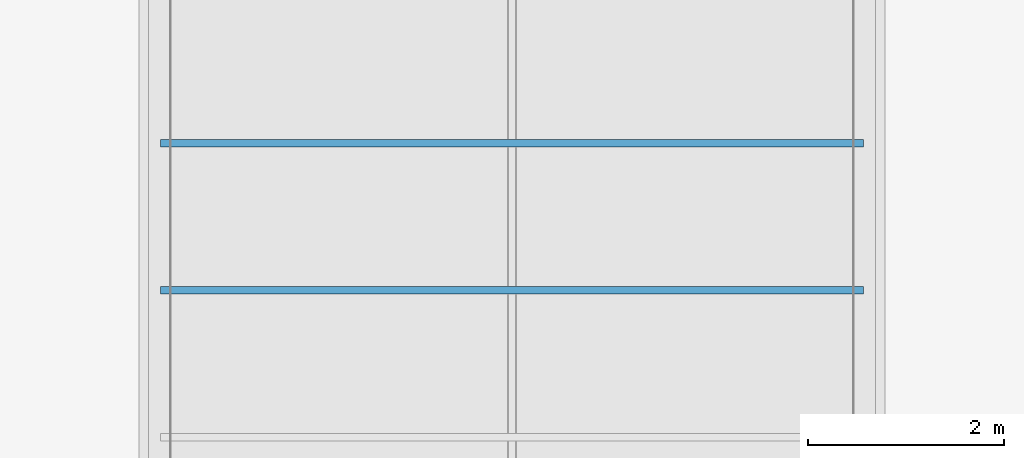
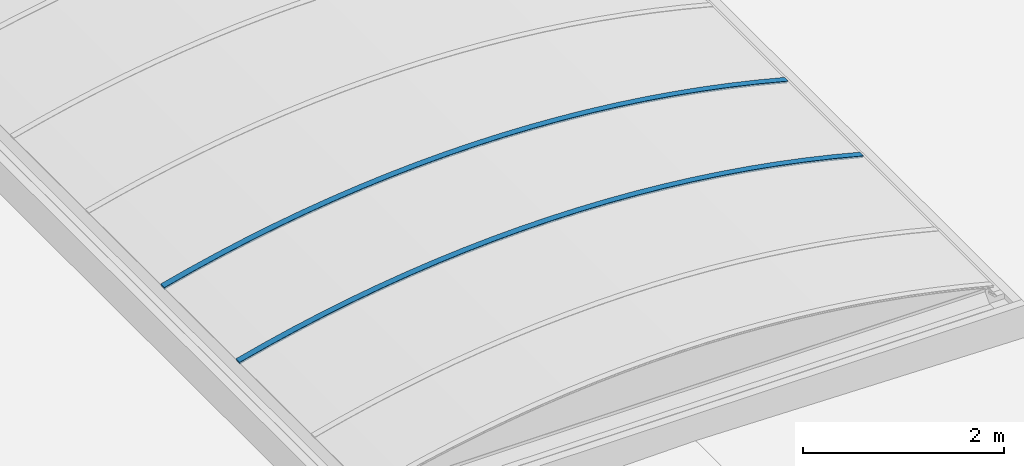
# One storey, part 33 of 81: 2 beams.
"""IFC2X3 building model written with IfcOpenShell, lengths in millimetres."""

from ifc_helpers import new_model, entity, si_unit, converted_unit, derived_unit, money_unit, direction, frame, origin_with_axes, place, context, subcontext, project, spatial, faceted_brep, material, material_list, type_object, element, save


model = new_model("IFC2X3")

# Units and contexts
model_context = context("Model", 3, precision=0.01, world=origin_with_axes(), true_north=direction((0.0, 1.0)))
body_context = subcontext(model_context, "Body", "Model", "MODEL_VIEW")
ifc_project = project(units=[si_unit("LENGTHUNIT", "METRE", prefix="MILLI"), si_unit("AREAUNIT", "SQUARE_METRE"), si_unit("VOLUMEUNIT", "CUBIC_METRE"), converted_unit("PLANEANGLEUNIT", "DEGREE", entity("IfcPlaneAngleMeasure", 0.0174532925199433), si_unit("PLANEANGLEUNIT", "RADIAN"), dimensions=[0, 0, 0, 0, 0, 0, 0]), money_unit("EUR"), converted_unit("TIMEUNIT", "Year", entity("IfcTimeMeasure", 31557600.0), si_unit("TIMEUNIT", "SECOND"), dimensions=[0, 0, 1, 0, 0, 0, 0]), si_unit("MASSUNIT", "GRAM", prefix="KILO"), si_unit("THERMODYNAMICTEMPERATUREUNIT", "DEGREE_CELSIUS"), si_unit("LUMINOUSINTENSITYUNIT", "LUMEN"), si_unit("ENERGYUNIT", "JOULE", prefix="MEGA"), derived_unit("THERMALCONDUCTANCEUNIT", [(si_unit("POWERUNIT", "WATT"), 1), (si_unit("LENGTHUNIT", "METRE"), -1), (si_unit("THERMODYNAMICTEMPERATUREUNIT", "KELVIN"), -1)]), derived_unit("SPECIFICHEATCAPACITYUNIT", [(si_unit("ENERGYUNIT", "JOULE"), 1), (si_unit("MASSUNIT", "GRAM", prefix="KILO"), -1), (si_unit("THERMODYNAMICTEMPERATUREUNIT", "KELVIN"), -1)]), derived_unit("MASSDENSITYUNIT", [(si_unit("MASSUNIT", "GRAM", prefix="KILO"), 1), (si_unit("VOLUMEUNIT", "CUBIC_METRE"), -1)])], contexts=[model_context])

# Site, building, storey
site_placement = place(None, origin_with_axes())
site = spatial("IfcSite", under=ifc_project, at=site_placement, Name="Site", CompositionType="ELEMENT")
building_placement = place(site_placement, origin_with_axes())
building = spatial("IfcBuilding", under=site, at=building_placement, Name="Naam gebouw", CompositionType="ELEMENT")
storey_placement = place(building_placement, frame((0.0, 0.0, 15320.0), z_axis=(0.0, 0.0, 1.0), x_axis=(1.0, 0.0, 0.0)))
storey = spatial("IfcBuildingStorey", under=building, at=storey_placement, Name="01 dak", CompositionType="ELEMENT", Elevation=15320.0)

# Beams
ifc_material = material(Name="Metaal - Aluminium AFW")
ifc_material_list = material_list([ifc_material, ifc_material])
beam_type = type_object("IfcBeamType", Name="lichtstraat polycarbonaat (constructie) 7420 x 670", PredefinedType="BEAM")
beam_1_placement = place(storey_placement, frame((46900.00000000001, 41362.50000000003, 559.9999999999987), z_axis=(0.0, 0.0, 1.0), x_axis=(1.0, 0.0, 0.0)))
element("IfcBeam", 1, at=beam_1_placement, inside=storey, type_object=beam_type, material=ifc_material_list, Name="Plafondafwerking 3", ObjectType="BEAM", context=body_context, shape_type="Brep", body=[
    faceted_brep([(-3532.999999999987, 0.0, 192.1385480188), (-3582.999999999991, 0.0, 179.000000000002), (-3582.999999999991, 75.00000000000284, 179.000000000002), (-3532.999999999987, 75.00000000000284, 192.1385480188), (-3264.746952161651, 0.0, 264.2761146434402), (-3584.237010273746, 0.0, 183.6724462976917), (-3527.999999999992, 0.0, 193.4415530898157), (-3213.322878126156, 0.0, 271.5053933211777), (-2896.922437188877, 0.0, 342.2614189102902), (-2578.968364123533, 0.0, 405.6716830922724), (-2259.631179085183, 0.0, 461.7021786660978), (-1939.082143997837, 0.0, 510.3228562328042), (-1617.493170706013, 0.0, 551.5076403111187), (-1295.036728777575, 0.0, 585.2344433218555), (-971.8857530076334, 0.0, 611.485177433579), (-648.2135506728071, 0.0, 630.2457642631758), (-324.1937085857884, 0.0, 641.5061424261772), (0.0, 0.0, 645.2602729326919), (324.1937085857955, 0.0, 641.5061424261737), (648.2135506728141, 0.0, 630.2457642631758), (971.8857530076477, 0.0, 611.4851774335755), (1295.036728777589, 0.0, 585.2344433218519), (1617.49317070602, 0.0, 551.5076403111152), (1939.082143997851, 0.0, 510.3228562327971), (2259.63117908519, 0.0, 461.7021786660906), (2578.968364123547, 0.0, 405.6716830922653), (2896.922437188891, 0.0, 342.2614189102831), (3213.322878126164, 0.0, 271.5053933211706), (3528.000000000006, 0.0, 193.4415530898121), (3528.000000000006, 0.0, 194.0000000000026), (3533.000000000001, 0.0, 194.0000000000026), (3533.000000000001, 0.0, 192.1385480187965), (3582.999999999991, 0.0, 179.000000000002), (3584.237010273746, 0.0, 183.6724462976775), (3264.746952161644, 0.0, 264.2761146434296), (2943.448443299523, 0.0, 337.3385317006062), (2620.519461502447, 0.0, 402.8192257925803), (2296.138887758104, 0.0, 460.6819250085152), (1970.486407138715, 0.0, 510.8945772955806), (1643.742409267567, 0.0, 553.4293682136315), (1316.087888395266, 0.0, 588.2627363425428), (987.7043431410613, 0.0, 615.3753863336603), (658.7736759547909, 0.0, 634.7522995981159), (329.4780923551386, 0.0, 646.3827426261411), (0.0, 0.0, 650.2602729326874), (-329.4780923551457, 0.0, 646.3827426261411), (-658.7736759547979, 0.0, 634.7522995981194), (-987.7043431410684, 0.0, 615.375386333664), (-1316.087888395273, 0.0, 588.2627363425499), (-1643.742409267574, 0.0, 553.4293682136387), (-1970.486407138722, 0.0, 510.8945772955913), (-2296.138887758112, 0.0, 460.6819250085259), (-2620.519461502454, 0.0, 402.8192257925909), (-2943.44844329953, 0.0, 337.3385317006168), (-3584.237010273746, 75.00000000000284, 183.6724462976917), (-3527.999999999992, 75.00000000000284, 193.4415530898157), (-3264.746952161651, 75.00000000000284, 264.2761146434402), (-2943.44844329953, 75.00000000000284, 337.3385317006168), (-2620.519461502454, 75.00000000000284, 402.8192257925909), (-2296.138887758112, 75.00000000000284, 460.6819250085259), (-1970.486407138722, 75.00000000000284, 510.8945772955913), (-1643.742409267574, 75.00000000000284, 553.4293682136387), (-1316.087888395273, 75.00000000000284, 588.2627363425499), (-987.7043431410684, 75.00000000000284, 615.375386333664), (-658.7736759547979, 75.00000000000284, 634.7522995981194), (-329.4780923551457, 75.00000000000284, 646.3827426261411), (0.0, 75.00000000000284, 650.2602729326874), (329.4780923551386, 75.00000000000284, 646.3827426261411), (658.7736759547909, 75.00000000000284, 634.7522995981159), (987.7043431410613, 75.00000000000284, 615.3753863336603), (1316.087888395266, 75.00000000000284, 588.2627363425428), (1643.742409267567, 75.00000000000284, 553.4293682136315), (1970.486407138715, 75.00000000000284, 510.8945772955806), (2296.138887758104, 75.00000000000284, 460.6819250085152), (2620.519461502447, 75.00000000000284, 402.8192257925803), (2943.448443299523, 75.00000000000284, 337.3385317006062), (3264.746952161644, 75.00000000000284, 264.2761146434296), (3584.237010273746, 75.00000000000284, 183.6724462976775), (3582.999999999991, 75.00000000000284, 179.000000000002), (3533.000000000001, 75.00000000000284, 192.1385480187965), (3533.000000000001, 75.00000000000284, 194.0000000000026), (3528.000000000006, 75.00000000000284, 194.0000000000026), (3528.000000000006, 75.00000000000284, 193.4415530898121), (3213.322878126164, 75.00000000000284, 271.5053933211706), (2896.922437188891, 75.00000000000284, 342.2614189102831), (2578.968364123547, 75.00000000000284, 405.6716830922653), (2259.63117908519, 75.00000000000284, 461.7021786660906), (1939.082143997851, 75.00000000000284, 510.3228562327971), (1617.49317070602, 75.00000000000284, 551.5076403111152), (1295.036728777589, 75.00000000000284, 585.2344433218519), (971.8857530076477, 75.00000000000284, 611.4851774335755), (648.2135506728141, 75.00000000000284, 630.2457642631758), (324.1937085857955, 75.00000000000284, 641.5061424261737), (0.0, 75.00000000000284, 645.2602729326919), (-324.1937085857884, 75.00000000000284, 641.5061424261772), (-648.2135506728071, 75.00000000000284, 630.2457642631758), (-971.8857530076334, 75.00000000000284, 611.485177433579), (-1295.036728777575, 75.00000000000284, 585.2344433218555), (-1617.493170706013, 75.00000000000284, 551.5076403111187), (-1939.082143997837, 75.00000000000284, 510.3228562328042), (-2259.631179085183, 75.00000000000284, 461.7021786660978), (-2578.968364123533, 75.00000000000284, 405.6716830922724), (-2896.922437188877, 75.00000000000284, 342.2614189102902), (-3213.322878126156, 75.00000000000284, 271.5053933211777)], [[[0, 1, 2, 3]], [[4, 5, 1, 0, 6, 7, 8, 9, 10, 11, 12, 13, 14, 15, 16, 17, 18, 19, 20, 21, 22, 23, 24, 25, 26, 27, 28, 29, 30, 31, 32, 33, 34, 35, 36, 37, 38, 39, 40, 41, 42, 43, 44, 45, 46, 47, 48, 49, 50, 51, 52, 53]], [[1, 5, 54, 2]], [[55, 3, 2, 54, 56, 57, 58, 59, 60, 61, 62, 63, 64, 65, 66, 67, 68, 69, 70, 71, 72, 73, 74, 75, 76, 77, 78, 79, 80, 81, 82, 83, 84, 85, 86, 87, 88, 89, 90, 91, 92, 93, 94, 95, 96, 97, 98, 99, 100, 101, 102, 103]], [[6, 0, 3, 55]], [[5, 4, 56, 54]], [[7, 6, 55, 103]], [[8, 7, 103, 102]], [[9, 8, 102, 101]], [[10, 9, 101, 100]], [[11, 10, 100, 99]], [[12, 11, 99, 98]], [[13, 12, 98, 97]], [[14, 13, 97, 96]], [[15, 14, 96, 95]], [[16, 15, 95, 94]], [[17, 16, 94, 93]], [[18, 17, 93, 92]], [[19, 18, 92, 91]], [[20, 19, 91, 90]], [[21, 20, 90, 89]], [[22, 21, 89, 88]], [[23, 22, 88, 87]], [[24, 23, 87, 86]], [[25, 24, 86, 85]], [[26, 25, 85, 84]], [[27, 26, 84, 83]], [[28, 27, 83, 82]], [[29, 28, 82, 81]], [[30, 29, 81, 80]], [[31, 30, 80, 79]], [[32, 31, 79, 78]], [[33, 32, 78, 77]], [[34, 33, 77, 76]], [[35, 34, 76, 75]], [[36, 35, 75, 74]], [[37, 36, 74, 73]], [[38, 37, 73, 72]], [[39, 38, 72, 71]], [[40, 39, 71, 70]], [[41, 40, 70, 69]], [[42, 41, 69, 68]], [[43, 42, 68, 67]], [[44, 43, 67, 66]], [[45, 44, 66, 65]], [[46, 45, 65, 64]], [[47, 46, 64, 63]], [[48, 47, 63, 62]], [[49, 48, 62, 61]], [[50, 49, 61, 60]], [[51, 50, 60, 59]], [[52, 51, 59, 58]], [[53, 52, 58, 57]], [[4, 53, 57, 56]]]),
    faceted_brep([(3269.271727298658, 75.00000000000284, 283.190243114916), (2947.542627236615, 75.00000000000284, 356.4574241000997), (2947.542627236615, 0.0, 356.4574241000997), (3269.271727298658, 0.0, 283.190243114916), (3589.18475202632, 75.00000000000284, 202.3611008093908), (3587.947861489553, 75.00000000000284, 197.6891067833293), (3528.000000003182, 75.00000000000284, 213.4415530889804), (3213.322878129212, 75.00000000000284, 291.505393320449), (2896.922437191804, 75.00000000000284, 362.2614189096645), (2578.968364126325, 75.00000000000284, 425.6716830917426), (2259.631179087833, 75.00000000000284, 481.7021786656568), (1939.082144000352, 75.00000000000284, 530.3228562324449), (1617.493170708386, 75.00000000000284, 571.5076403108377), (1295.036728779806, 75.00000000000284, 605.2344433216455), (971.8857530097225, 75.00000000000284, 631.4851774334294), (648.2135506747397, 75.00000000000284, 650.2457642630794), (324.1937085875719, 75.00000000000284, 661.5061424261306), (1.63424829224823e-09, 75.00000000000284, 665.2602729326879), (-324.1937085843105, 75.00000000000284, 661.5061424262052), (-648.2135506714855, 75.00000000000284, 650.2457642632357), (-971.8857530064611, 75.00000000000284, 631.4851774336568), (-1295.036728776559, 75.00000000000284, 605.2344433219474), (-1617.493170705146, 75.00000000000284, 571.5076403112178), (-1939.082143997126, 75.00000000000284, 530.3228562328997), (-2259.631179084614, 75.00000000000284, 481.7021786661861), (-2578.968364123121, 75.00000000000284, 425.6716830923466), (-2896.922437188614, 75.00000000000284, 362.2614189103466), (-3213.322878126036, 75.00000000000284, 291.5053933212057), (-3528.00000000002, 75.00000000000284, 213.4415530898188), (-3533.000000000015, 75.00000000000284, 212.1385480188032), (-3587.947861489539, 75.00000000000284, 197.6891067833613), (-3589.184752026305, 75.00000000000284, 202.3611008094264), (-3269.271727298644, 75.00000000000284, 283.1902431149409), (-2947.542627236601, 75.00000000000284, 356.4574241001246), (-2624.176171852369, 75.00000000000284, 422.1219439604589), (-2299.351990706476, 75.00000000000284, 480.1473261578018), (-1973.250523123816, 75.00000000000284, 530.5013376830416), (-1646.052917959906, 75.00000000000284, 573.156006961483), (-1317.940932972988, 75.00000000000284, 608.0876393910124), (-989.0968338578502, 75.00000000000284, 635.2768305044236), (-659.7032929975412, 75.00000000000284, 654.7084767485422), (-329.9432879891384, 75.00000000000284, 666.3717838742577), (0.0, 75.00000000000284, 670.2602729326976), (329.9432879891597, 75.00000000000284, 666.3717838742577), (659.7032929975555, 75.00000000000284, 654.7084767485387), (989.0968338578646, 75.00000000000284, 635.2768305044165), (1317.940932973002, 75.00000000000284, 608.0876393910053), (1646.052917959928, 75.00000000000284, 573.1560069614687), (1973.250523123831, 75.00000000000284, 530.5013376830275), (2299.351990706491, 75.00000000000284, 480.147326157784), (2624.176171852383, 75.00000000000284, 422.1219439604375), (2624.176171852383, 0.0, 422.1219439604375), (2299.351990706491, 0.0, 480.147326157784), (1973.250523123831, 0.0, 530.5013376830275), (1646.052917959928, 0.0, 573.1560069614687), (1317.940932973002, 0.0, 608.0876393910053), (989.0968338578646, 0.0, 635.2768305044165), (659.7032929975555, 0.0, 654.7084767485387), (329.9432879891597, 0.0, 666.3717838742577), (0.0, 0.0, 670.2602729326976), (-329.9432879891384, 0.0, 666.3717838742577), (-659.7032929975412, 0.0, 654.7084767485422), (-989.0968338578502, 0.0, 635.2768305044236), (-1317.940932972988, 0.0, 608.0876393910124), (-1646.052917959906, 0.0, 573.156006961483), (-1973.250523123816, 0.0, 530.5013376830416), (-2299.351990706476, 0.0, 480.1473261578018), (-2624.176171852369, 0.0, 422.1219439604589), (-2947.542627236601, 0.0, 356.4574241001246), (-3269.271727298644, 0.0, 283.1902431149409), (-3589.184752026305, 0.0, 202.3611008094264), (-3587.947861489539, 0.0, 197.6891067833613), (-3533.000000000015, 0.0, 212.1385480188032), (-3528.00000000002, 0.0, 213.4415530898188), (-3213.322878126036, 0.0, 291.5053933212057), (-2896.922437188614, 0.0, 362.2614189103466), (-2578.968364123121, 0.0, 425.6716830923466), (-2259.631179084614, 0.0, 481.7021786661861), (-1939.082143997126, 0.0, 530.3228562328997), (-1617.493170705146, 0.0, 571.5076403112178), (-1295.036728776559, 0.0, 605.2344433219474), (-971.8857530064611, 0.0, 631.4851774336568), (-648.2135506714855, 0.0, 650.2457642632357), (-324.1937085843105, 0.0, 661.5061424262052), (1.63424829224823e-09, 0.0, 665.2602729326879), (324.1937085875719, 0.0, 661.5061424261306), (648.2135506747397, 0.0, 650.2457642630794), (971.8857530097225, 0.0, 631.4851774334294), (1295.036728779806, 0.0, 605.2344433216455), (1617.493170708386, 0.0, 571.5076403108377), (1939.082144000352, 0.0, 530.3228562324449), (2259.631179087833, 0.0, 481.7021786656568), (2578.968364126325, 0.0, 425.6716830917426), (2896.922437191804, 0.0, 362.2614189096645), (3213.322878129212, 0.0, 291.505393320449), (3528.000000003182, 0.0, 213.4415530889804), (3587.947861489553, 0.0, 197.6891067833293), (3589.18475202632, 0.0, 202.3611008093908)], [[[0, 1, 2, 3]], [[0, 4, 5, 6, 7, 8, 9, 10, 11, 12, 13, 14, 15, 16, 17, 18, 19, 20, 21, 22, 23, 24, 25, 26, 27, 28, 29, 30, 31, 32, 33, 34, 35, 36, 37, 38, 39, 40, 41, 42, 43, 44, 45, 46, 47, 48, 49, 50, 1]], [[1, 50, 51, 2]], [[3, 2, 51, 52, 53, 54, 55, 56, 57, 58, 59, 60, 61, 62, 63, 64, 65, 66, 67, 68, 69, 70, 71, 72, 73, 74, 75, 76, 77, 78, 79, 80, 81, 82, 83, 84, 85, 86, 87, 88, 89, 90, 91, 92, 93, 94, 95, 96, 97]], [[4, 0, 3, 97]], [[5, 4, 97, 96]], [[6, 5, 96, 95]], [[7, 6, 95, 94]], [[8, 7, 94, 93]], [[9, 8, 93, 92]], [[10, 9, 92, 91]], [[11, 10, 91, 90]], [[12, 11, 90, 89]], [[13, 12, 89, 88]], [[14, 13, 88, 87]], [[15, 14, 87, 86]], [[16, 15, 86, 85]], [[17, 16, 85, 84]], [[18, 17, 84, 83]], [[19, 18, 83, 82]], [[20, 19, 82, 81]], [[21, 20, 81, 80]], [[22, 21, 80, 79]], [[23, 22, 79, 78]], [[24, 23, 78, 77]], [[25, 24, 77, 76]], [[26, 25, 76, 75]], [[27, 26, 75, 74]], [[28, 27, 74, 73]], [[29, 28, 73, 72]], [[30, 29, 72, 71]], [[31, 30, 71, 70]], [[32, 31, 70, 69]], [[33, 32, 69, 68]], [[34, 33, 68, 67]], [[35, 34, 67, 66]], [[36, 35, 66, 65]], [[37, 36, 65, 64]], [[38, 37, 64, 63]], [[39, 38, 63, 62]], [[40, 39, 62, 61]], [[41, 40, 61, 60]], [[42, 41, 60, 59]], [[43, 42, 59, 58]], [[44, 43, 58, 57]], [[45, 44, 57, 56]], [[46, 45, 56, 55]], [[47, 46, 55, 54]], [[48, 47, 54, 53]], [[49, 48, 53, 52]], [[50, 49, 52, 51]]]),
])
beam_2_placement = place(storey_placement, frame((46900.00000000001, 39862.50000000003, 559.9999999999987), z_axis=(0.0, 0.0, 1.0), x_axis=(1.0, 0.0, 0.0)))
element("IfcBeam", 2, at=beam_2_placement, inside=storey, type_object=beam_type, material=ifc_material_list, Name="Plafondafwerking 3", ObjectType="BEAM", context=body_context, shape_type="Brep", body=[
    faceted_brep([(-3532.999999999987, 0.0, 192.1385480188), (-3582.999999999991, 0.0, 179.000000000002), (-3582.999999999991, 75.00000000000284, 179.000000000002), (-3532.999999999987, 75.00000000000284, 192.1385480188), (-3264.746952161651, 0.0, 264.2761146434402), (-3584.237010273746, 0.0, 183.6724462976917), (-3527.999999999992, 0.0, 193.4415530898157), (-3213.322878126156, 0.0, 271.5053933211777), (-2896.922437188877, 0.0, 342.2614189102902), (-2578.968364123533, 0.0, 405.6716830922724), (-2259.631179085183, 0.0, 461.7021786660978), (-1939.082143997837, 0.0, 510.3228562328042), (-1617.493170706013, 0.0, 551.5076403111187), (-1295.036728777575, 0.0, 585.2344433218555), (-971.8857530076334, 0.0, 611.485177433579), (-648.2135506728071, 0.0, 630.2457642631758), (-324.1937085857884, 0.0, 641.5061424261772), (0.0, 0.0, 645.2602729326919), (324.1937085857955, 0.0, 641.5061424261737), (648.2135506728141, 0.0, 630.2457642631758), (971.8857530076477, 0.0, 611.4851774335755), (1295.036728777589, 0.0, 585.2344433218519), (1617.49317070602, 0.0, 551.5076403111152), (1939.082143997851, 0.0, 510.3228562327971), (2259.63117908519, 0.0, 461.7021786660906), (2578.968364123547, 0.0, 405.6716830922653), (2896.922437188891, 0.0, 342.2614189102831), (3213.322878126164, 0.0, 271.5053933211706), (3528.000000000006, 0.0, 193.4415530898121), (3528.000000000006, 0.0, 194.0000000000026), (3533.000000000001, 0.0, 194.0000000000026), (3533.000000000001, 0.0, 192.1385480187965), (3582.999999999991, 0.0, 179.000000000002), (3584.237010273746, 0.0, 183.6724462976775), (3264.746952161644, 0.0, 264.2761146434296), (2943.448443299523, 0.0, 337.3385317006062), (2620.519461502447, 0.0, 402.8192257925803), (2296.138887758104, 0.0, 460.6819250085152), (1970.486407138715, 0.0, 510.8945772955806), (1643.742409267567, 0.0, 553.4293682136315), (1316.087888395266, 0.0, 588.2627363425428), (987.7043431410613, 0.0, 615.3753863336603), (658.7736759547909, 0.0, 634.7522995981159), (329.4780923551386, 0.0, 646.3827426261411), (0.0, 0.0, 650.2602729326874), (-329.4780923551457, 0.0, 646.3827426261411), (-658.7736759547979, 0.0, 634.7522995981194), (-987.7043431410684, 0.0, 615.375386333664), (-1316.087888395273, 0.0, 588.2627363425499), (-1643.742409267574, 0.0, 553.4293682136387), (-1970.486407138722, 0.0, 510.8945772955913), (-2296.138887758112, 0.0, 460.6819250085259), (-2620.519461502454, 0.0, 402.8192257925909), (-2943.44844329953, 0.0, 337.3385317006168), (-3584.237010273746, 75.00000000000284, 183.6724462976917), (-3527.999999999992, 75.00000000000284, 193.4415530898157), (-3264.746952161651, 75.00000000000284, 264.2761146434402), (-2943.44844329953, 75.00000000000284, 337.3385317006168), (-2620.519461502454, 75.00000000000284, 402.8192257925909), (-2296.138887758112, 75.00000000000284, 460.6819250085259), (-1970.486407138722, 75.00000000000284, 510.8945772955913), (-1643.742409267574, 75.00000000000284, 553.4293682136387), (-1316.087888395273, 75.00000000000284, 588.2627363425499), (-987.7043431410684, 75.00000000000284, 615.375386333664), (-658.7736759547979, 75.00000000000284, 634.7522995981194), (-329.4780923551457, 75.00000000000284, 646.3827426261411), (0.0, 75.00000000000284, 650.2602729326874), (329.4780923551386, 75.00000000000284, 646.3827426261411), (658.7736759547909, 75.00000000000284, 634.7522995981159), (987.7043431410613, 75.00000000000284, 615.3753863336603), (1316.087888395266, 75.00000000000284, 588.2627363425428), (1643.742409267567, 75.00000000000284, 553.4293682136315), (1970.486407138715, 75.00000000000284, 510.8945772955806), (2296.138887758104, 75.00000000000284, 460.6819250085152), (2620.519461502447, 75.00000000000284, 402.8192257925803), (2943.448443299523, 75.00000000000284, 337.3385317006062), (3264.746952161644, 75.00000000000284, 264.2761146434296), (3584.237010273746, 75.00000000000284, 183.6724462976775), (3582.999999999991, 75.00000000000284, 179.000000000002), (3533.000000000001, 75.00000000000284, 192.1385480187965), (3533.000000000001, 75.00000000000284, 194.0000000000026), (3528.000000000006, 75.00000000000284, 194.0000000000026), (3528.000000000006, 75.00000000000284, 193.4415530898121), (3213.322878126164, 75.00000000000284, 271.5053933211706), (2896.922437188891, 75.00000000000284, 342.2614189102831), (2578.968364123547, 75.00000000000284, 405.6716830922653), (2259.63117908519, 75.00000000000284, 461.7021786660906), (1939.082143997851, 75.00000000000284, 510.3228562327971), (1617.49317070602, 75.00000000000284, 551.5076403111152), (1295.036728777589, 75.00000000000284, 585.2344433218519), (971.8857530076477, 75.00000000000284, 611.4851774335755), (648.2135506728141, 75.00000000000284, 630.2457642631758), (324.1937085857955, 75.00000000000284, 641.5061424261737), (0.0, 75.00000000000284, 645.2602729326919), (-324.1937085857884, 75.00000000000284, 641.5061424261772), (-648.2135506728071, 75.00000000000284, 630.2457642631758), (-971.8857530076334, 75.00000000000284, 611.485177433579), (-1295.036728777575, 75.00000000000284, 585.2344433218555), (-1617.493170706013, 75.00000000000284, 551.5076403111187), (-1939.082143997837, 75.00000000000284, 510.3228562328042), (-2259.631179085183, 75.00000000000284, 461.7021786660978), (-2578.968364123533, 75.00000000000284, 405.6716830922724), (-2896.922437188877, 75.00000000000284, 342.2614189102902), (-3213.322878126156, 75.00000000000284, 271.5053933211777)], [[[0, 1, 2, 3]], [[4, 5, 1, 0, 6, 7, 8, 9, 10, 11, 12, 13, 14, 15, 16, 17, 18, 19, 20, 21, 22, 23, 24, 25, 26, 27, 28, 29, 30, 31, 32, 33, 34, 35, 36, 37, 38, 39, 40, 41, 42, 43, 44, 45, 46, 47, 48, 49, 50, 51, 52, 53]], [[1, 5, 54, 2]], [[55, 3, 2, 54, 56, 57, 58, 59, 60, 61, 62, 63, 64, 65, 66, 67, 68, 69, 70, 71, 72, 73, 74, 75, 76, 77, 78, 79, 80, 81, 82, 83, 84, 85, 86, 87, 88, 89, 90, 91, 92, 93, 94, 95, 96, 97, 98, 99, 100, 101, 102, 103]], [[6, 0, 3, 55]], [[5, 4, 56, 54]], [[7, 6, 55, 103]], [[8, 7, 103, 102]], [[9, 8, 102, 101]], [[10, 9, 101, 100]], [[11, 10, 100, 99]], [[12, 11, 99, 98]], [[13, 12, 98, 97]], [[14, 13, 97, 96]], [[15, 14, 96, 95]], [[16, 15, 95, 94]], [[17, 16, 94, 93]], [[18, 17, 93, 92]], [[19, 18, 92, 91]], [[20, 19, 91, 90]], [[21, 20, 90, 89]], [[22, 21, 89, 88]], [[23, 22, 88, 87]], [[24, 23, 87, 86]], [[25, 24, 86, 85]], [[26, 25, 85, 84]], [[27, 26, 84, 83]], [[28, 27, 83, 82]], [[29, 28, 82, 81]], [[30, 29, 81, 80]], [[31, 30, 80, 79]], [[32, 31, 79, 78]], [[33, 32, 78, 77]], [[34, 33, 77, 76]], [[35, 34, 76, 75]], [[36, 35, 75, 74]], [[37, 36, 74, 73]], [[38, 37, 73, 72]], [[39, 38, 72, 71]], [[40, 39, 71, 70]], [[41, 40, 70, 69]], [[42, 41, 69, 68]], [[43, 42, 68, 67]], [[44, 43, 67, 66]], [[45, 44, 66, 65]], [[46, 45, 65, 64]], [[47, 46, 64, 63]], [[48, 47, 63, 62]], [[49, 48, 62, 61]], [[50, 49, 61, 60]], [[51, 50, 60, 59]], [[52, 51, 59, 58]], [[53, 52, 58, 57]], [[4, 53, 57, 56]]]),
    faceted_brep([(3269.271727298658, 75.00000000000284, 283.190243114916), (2947.542627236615, 75.00000000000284, 356.4574241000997), (2947.542627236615, 0.0, 356.4574241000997), (3269.271727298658, 0.0, 283.190243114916), (3589.18475202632, 75.00000000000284, 202.3611008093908), (3587.947861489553, 75.00000000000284, 197.6891067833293), (3528.000000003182, 75.00000000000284, 213.4415530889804), (3213.322878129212, 75.00000000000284, 291.505393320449), (2896.922437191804, 75.00000000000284, 362.2614189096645), (2578.968364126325, 75.00000000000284, 425.6716830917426), (2259.631179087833, 75.00000000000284, 481.7021786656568), (1939.082144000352, 75.00000000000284, 530.3228562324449), (1617.493170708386, 75.00000000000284, 571.5076403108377), (1295.036728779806, 75.00000000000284, 605.2344433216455), (971.8857530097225, 75.00000000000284, 631.4851774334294), (648.2135506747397, 75.00000000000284, 650.2457642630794), (324.1937085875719, 75.00000000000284, 661.5061424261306), (1.63424829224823e-09, 75.00000000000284, 665.2602729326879), (-324.1937085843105, 75.00000000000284, 661.5061424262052), (-648.2135506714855, 75.00000000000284, 650.2457642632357), (-971.8857530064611, 75.00000000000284, 631.4851774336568), (-1295.036728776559, 75.00000000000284, 605.2344433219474), (-1617.493170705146, 75.00000000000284, 571.5076403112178), (-1939.082143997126, 75.00000000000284, 530.3228562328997), (-2259.631179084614, 75.00000000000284, 481.7021786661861), (-2578.968364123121, 75.00000000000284, 425.6716830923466), (-2896.922437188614, 75.00000000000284, 362.2614189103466), (-3213.322878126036, 75.00000000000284, 291.5053933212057), (-3528.00000000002, 75.00000000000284, 213.4415530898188), (-3533.000000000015, 75.00000000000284, 212.1385480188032), (-3587.947861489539, 75.00000000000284, 197.6891067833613), (-3589.184752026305, 75.00000000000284, 202.3611008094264), (-3269.271727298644, 75.00000000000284, 283.1902431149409), (-2947.542627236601, 75.00000000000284, 356.4574241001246), (-2624.176171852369, 75.00000000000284, 422.1219439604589), (-2299.351990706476, 75.00000000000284, 480.1473261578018), (-1973.250523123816, 75.00000000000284, 530.5013376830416), (-1646.052917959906, 75.00000000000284, 573.156006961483), (-1317.940932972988, 75.00000000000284, 608.0876393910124), (-989.0968338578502, 75.00000000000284, 635.2768305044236), (-659.7032929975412, 75.00000000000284, 654.7084767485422), (-329.9432879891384, 75.00000000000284, 666.3717838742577), (0.0, 75.00000000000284, 670.2602729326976), (329.9432879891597, 75.00000000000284, 666.3717838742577), (659.7032929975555, 75.00000000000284, 654.7084767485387), (989.0968338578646, 75.00000000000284, 635.2768305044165), (1317.940932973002, 75.00000000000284, 608.0876393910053), (1646.052917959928, 75.00000000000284, 573.1560069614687), (1973.250523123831, 75.00000000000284, 530.5013376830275), (2299.351990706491, 75.00000000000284, 480.147326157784), (2624.176171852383, 75.00000000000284, 422.1219439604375), (2624.176171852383, 0.0, 422.1219439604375), (2299.351990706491, 0.0, 480.147326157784), (1973.250523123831, 0.0, 530.5013376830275), (1646.052917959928, 0.0, 573.1560069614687), (1317.940932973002, 0.0, 608.0876393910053), (989.0968338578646, 0.0, 635.2768305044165), (659.7032929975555, 0.0, 654.7084767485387), (329.9432879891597, 0.0, 666.3717838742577), (0.0, 0.0, 670.2602729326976), (-329.9432879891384, 0.0, 666.3717838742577), (-659.7032929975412, 0.0, 654.7084767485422), (-989.0968338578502, 0.0, 635.2768305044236), (-1317.940932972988, 0.0, 608.0876393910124), (-1646.052917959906, 0.0, 573.156006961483), (-1973.250523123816, 0.0, 530.5013376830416), (-2299.351990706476, 0.0, 480.1473261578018), (-2624.176171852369, 0.0, 422.1219439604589), (-2947.542627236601, 0.0, 356.4574241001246), (-3269.271727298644, 0.0, 283.1902431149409), (-3589.184752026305, 0.0, 202.3611008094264), (-3587.947861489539, 0.0, 197.6891067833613), (-3533.000000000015, 0.0, 212.1385480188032), (-3528.00000000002, 0.0, 213.4415530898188), (-3213.322878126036, 0.0, 291.5053933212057), (-2896.922437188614, 0.0, 362.2614189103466), (-2578.968364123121, 0.0, 425.6716830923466), (-2259.631179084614, 0.0, 481.7021786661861), (-1939.082143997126, 0.0, 530.3228562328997), (-1617.493170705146, 0.0, 571.5076403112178), (-1295.036728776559, 0.0, 605.2344433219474), (-971.8857530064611, 0.0, 631.4851774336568), (-648.2135506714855, 0.0, 650.2457642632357), (-324.1937085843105, 0.0, 661.5061424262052), (1.63424829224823e-09, 0.0, 665.2602729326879), (324.1937085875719, 0.0, 661.5061424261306), (648.2135506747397, 0.0, 650.2457642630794), (971.8857530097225, 0.0, 631.4851774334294), (1295.036728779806, 0.0, 605.2344433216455), (1617.493170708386, 0.0, 571.5076403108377), (1939.082144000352, 0.0, 530.3228562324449), (2259.631179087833, 0.0, 481.7021786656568), (2578.968364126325, 0.0, 425.6716830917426), (2896.922437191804, 0.0, 362.2614189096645), (3213.322878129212, 0.0, 291.505393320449), (3528.000000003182, 0.0, 213.4415530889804), (3587.947861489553, 0.0, 197.6891067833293), (3589.18475202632, 0.0, 202.3611008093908)], [[[0, 1, 2, 3]], [[0, 4, 5, 6, 7, 8, 9, 10, 11, 12, 13, 14, 15, 16, 17, 18, 19, 20, 21, 22, 23, 24, 25, 26, 27, 28, 29, 30, 31, 32, 33, 34, 35, 36, 37, 38, 39, 40, 41, 42, 43, 44, 45, 46, 47, 48, 49, 50, 1]], [[1, 50, 51, 2]], [[3, 2, 51, 52, 53, 54, 55, 56, 57, 58, 59, 60, 61, 62, 63, 64, 65, 66, 67, 68, 69, 70, 71, 72, 73, 74, 75, 76, 77, 78, 79, 80, 81, 82, 83, 84, 85, 86, 87, 88, 89, 90, 91, 92, 93, 94, 95, 96, 97]], [[4, 0, 3, 97]], [[5, 4, 97, 96]], [[6, 5, 96, 95]], [[7, 6, 95, 94]], [[8, 7, 94, 93]], [[9, 8, 93, 92]], [[10, 9, 92, 91]], [[11, 10, 91, 90]], [[12, 11, 90, 89]], [[13, 12, 89, 88]], [[14, 13, 88, 87]], [[15, 14, 87, 86]], [[16, 15, 86, 85]], [[17, 16, 85, 84]], [[18, 17, 84, 83]], [[19, 18, 83, 82]], [[20, 19, 82, 81]], [[21, 20, 81, 80]], [[22, 21, 80, 79]], [[23, 22, 79, 78]], [[24, 23, 78, 77]], [[25, 24, 77, 76]], [[26, 25, 76, 75]], [[27, 26, 75, 74]], [[28, 27, 74, 73]], [[29, 28, 73, 72]], [[30, 29, 72, 71]], [[31, 30, 71, 70]], [[32, 31, 70, 69]], [[33, 32, 69, 68]], [[34, 33, 68, 67]], [[35, 34, 67, 66]], [[36, 35, 66, 65]], [[37, 36, 65, 64]], [[38, 37, 64, 63]], [[39, 38, 63, 62]], [[40, 39, 62, 61]], [[41, 40, 61, 60]], [[42, 41, 60, 59]], [[43, 42, 59, 58]], [[44, 43, 58, 57]], [[45, 44, 57, 56]], [[46, 45, 56, 55]], [[47, 46, 55, 54]], [[48, 47, 54, 53]], [[49, 48, 53, 52]], [[50, 49, 52, 51]]]),
])

save(model, "model.ifc")
